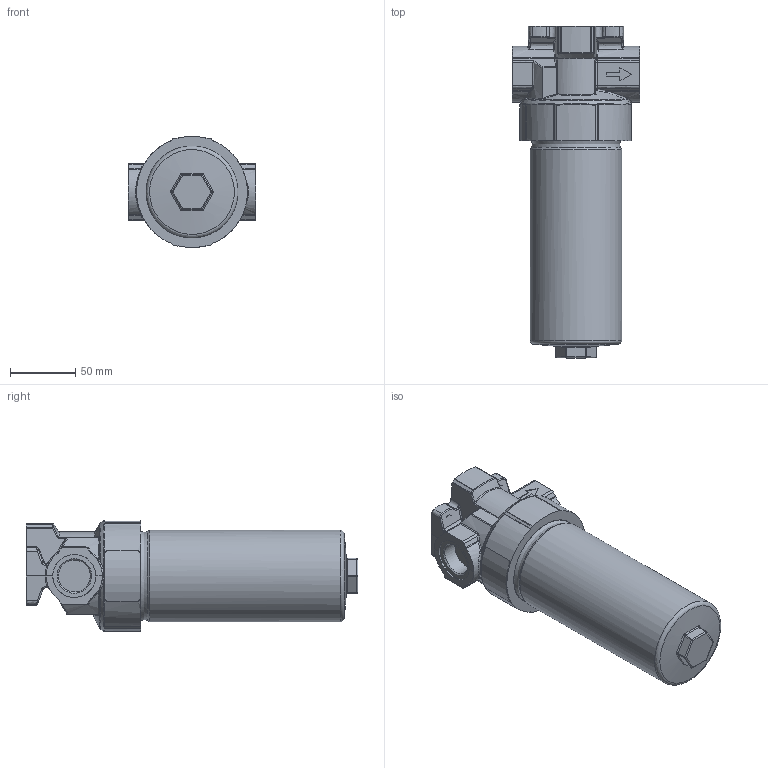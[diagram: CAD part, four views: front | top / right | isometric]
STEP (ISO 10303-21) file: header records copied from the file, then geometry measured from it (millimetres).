
FILE_DESCRIPTION((''),'2;1');
FILE_NAME('U:\Users\r.stiegele\D112-156(18989900).stp', '2014-03-10T08:52:27',('User'),('SDRC'),'I-DEAS Master Series 9','UNIX', 'Yes');
FILE_SCHEMA(('AUTOMOTIVE_DESIGN { 1 0 10303 214 1 1 1 1 }'));
Length unit declared in the file: millimetre
Products named in the file (1): 18989900(318603)
Bounding box: 98 x 254.5 x 84.95 mm (x, y, z)
Volume: 1005715 mm3; surface area: 75841.5 mm2
Topology: 1 solids, 1 shells, 349 faces, 840 edges, 480 vertices
Faces by surface type: bspline 349
Entity records: 14121 total; most frequent: CARTESIAN_POINT 9428, ORIENTED_EDGE 1634, EDGE_CURVE 817, B_SPLINE_CURVE_WITH_KNOTS 517, VERTEX_POINT 480, EDGE_LOOP 359, FACE_OUTER_BOUND 349, ADVANCED_FACE 349
